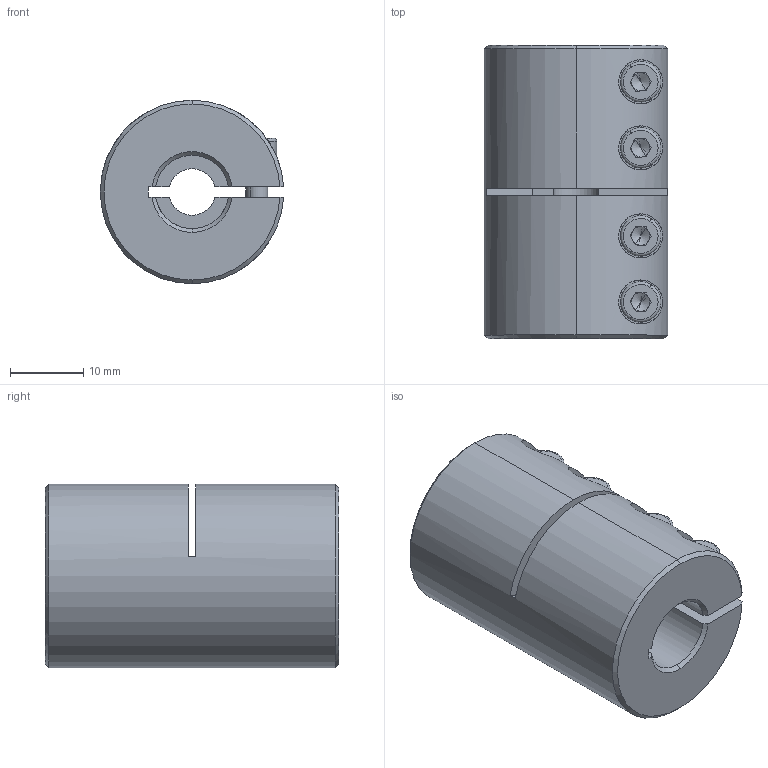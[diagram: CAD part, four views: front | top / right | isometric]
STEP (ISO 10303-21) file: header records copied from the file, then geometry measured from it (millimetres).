
FILE_DESCRIPTION (( 'STEP AP214' ), '1' );
FILE_NAME ('LL-B-D25L40-6.35-10½¨Ä£.STEP', '2022-07-21T05:14:48', ( '' ), ( '' ), 'SwSTEP 2.0', 'SolidWorks 2022', '' );
FILE_SCHEMA (( 'AUTOMOTIVE_DESIGN' ));
Length unit declared in the file: millimetre
Products named in the file (1): LL-B-D25L40-6.35-10膘耀
Bounding box: 24.98 x 40 x 25 mm (x, y, z)
Volume: 16342.7 mm3; surface area: 7151.8 mm2
Topology: 1 solids, 1 shells, 178 faces, 455 edges, 287 vertices
Faces by surface type: plane 85, cylinder 65, cone 20, torus 8
Entity records: 5838 total; most frequent: CARTESIAN_POINT 1437, DIRECTION 946, ORIENTED_EDGE 894, EDGE_CURVE 447, AXIS2_PLACEMENT_3D 364, VERTEX_POINT 287, LINE 218, VECTOR 218
